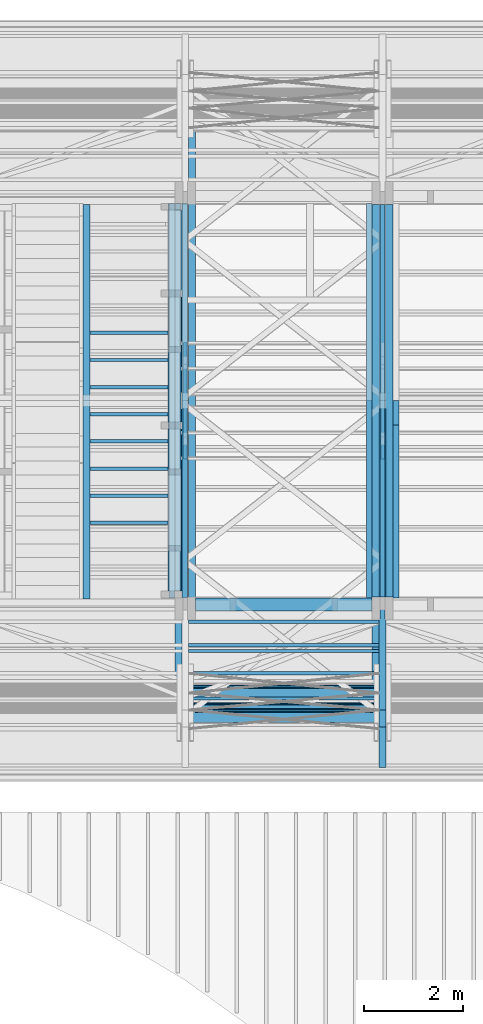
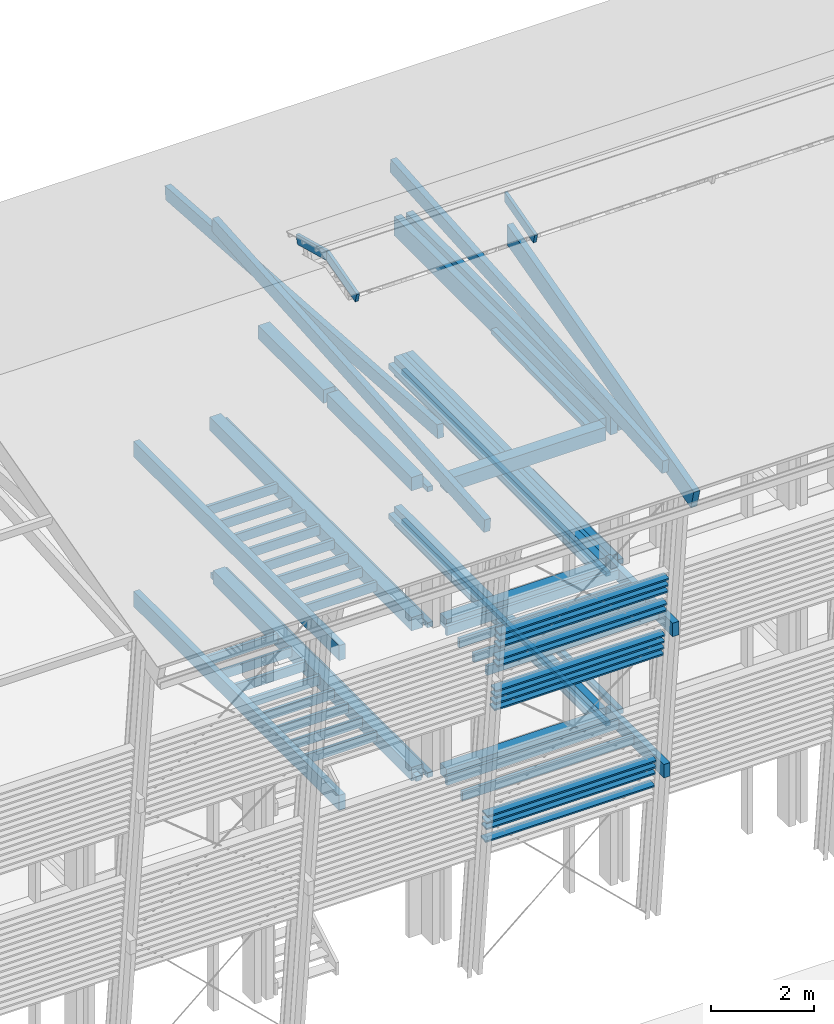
# One storey, part 10 of 48: 71 beams.
"""IFC2X3 building model written with IfcOpenShell, lengths in metres."""

from ifc_helpers import new_model, si_unit, direction, frame, origin_with_axes, place, context, subcontext, project, spatial, faceted_brep, material, element, save


model = new_model("IFC2X3")

# Units and contexts
model_context = context("Model", 3, precision=1e-06, world=origin_with_axes(), true_north=direction((0.0, 1.0, 0.0)))
body_context = subcontext(model_context, "Body", "Model", "MODEL_VIEW")
ifc_project = project(units=[si_unit("LENGTHUNIT", "METRE"), si_unit("AREAUNIT", "SQUARE_METRE"), si_unit("VOLUMEUNIT", "CUBIC_METRE"), si_unit("PLANEANGLEUNIT", "RADIAN")], contexts=[model_context])

# Site, building, storey
site_placement = place(None, origin_with_axes())
site = spatial("IfcSite", under=ifc_project, at=site_placement, CompositionType="ELEMENT")
building_placement = place(site_placement, origin_with_axes())
building = spatial("IfcBuilding", under=site, at=building_placement, Name="Building 1", CompositionType="ELEMENT")
storey_placement = place(building_placement, origin_with_axes())
storey = spatial("IfcBuildingStorey", under=building, at=storey_placement, Name="Storey 1", CompositionType="ELEMENT", Elevation=0.0)

# Beams
ifc_material_1 = material(Name="GL28h")
beam_1_placement = place(storey_placement, frame((43.5597437, -190.0330698, 7.699), z_axis=(0.0, 0.0, 1.0), x_axis=(1.0, 0.0, 0.0)))
element("IfcBeam", 1, at=beam_1_placement, inside=storey, material=ifc_material_1, Name="Solive", context=body_context, shape_type="Brep", body=[
    faceted_brep([(1.58, 0.035, -0.11), (1.58, -0.035, -0.11), (0.0, -0.035, -0.11), (0.0, 0.035, -0.11), (1.58, -0.035, 0.11), (0.0, -0.035, 0.11), (1.58, 0.035, 0.11), (0.0, 0.035, 0.11)], [[[0, 1, 2, 3]], [[1, 4, 5, 2]], [[4, 6, 7, 5]], [[6, 0, 3, 7]], [[0, 6, 4, 1]], [[5, 7, 3, 2]]]),
])
beam_2_placement = place(storey_placement, frame((45.2197437, -185.2064881, 4.015), z_axis=(0.0, 0.0, 1.0), x_axis=(0.0, -1.0, 0.0)))
element("IfcBeam", 2, at=beam_2_placement, inside=storey, material=ifc_material_1, Name="Sous-glace", context=body_context, shape_type="Brep", body=[
    faceted_brep([(0.0, -0.06, -0.06), (0.0, 0.06, -0.06), (8.0031634, 0.06, -0.06), (8.0031634, -0.06, -0.06), (0.0, 0.06, 0.06), (8.0031634, 0.06, 0.06), (0.0, -0.06, 0.06), (8.0031634, -0.06, 0.06)], [[[0, 1, 2, 3]], [[1, 4, 5, 2]], [[4, 6, 7, 5]], [[6, 0, 3, 7]], [[0, 6, 4, 1]], [[5, 7, 3, 2]]]),
])
beam_3_placement = place(storey_placement, frame((45.4897437, -190.3622807, 13.6093897), z_axis=(0.0, -0.258819, 0.9659258), x_axis=(0.0, 0.9659258, 0.258819)))
element("IfcBeam", 3, at=beam_3_placement, inside=storey, material=ifc_material_1, Name="Arbalétrier", context=body_context, shape_type="Brep", body=[
    faceted_brep([(0.0, -0.035, -0.11), (0.0, -0.035, 0.11), (0.0, 0.035, 0.11), (0.0, 0.035, -0.11), (1.2244015, -0.035, 0.11), (1.2244015, 0.035, 0.11), (1.1654527, -0.035, -0.11), (1.1654527, 0.035, -0.11)], [[[0, 1, 2, 3]], [[2, 1, 4, 5]], [[1, 0, 6, 4]], [[7, 5, 4, 6]], [[0, 3, 7, 6]], [[3, 2, 5, 7]]]),
])
beam_4_placement = place(storey_placement, frame((45.2697437, -185.3464881, 4.055), z_axis=(0.0, 0.0, 1.0), x_axis=(0.0, -1.0, 0.0)))
element("IfcBeam", 4, at=beam_4_placement, inside=storey, material=ifc_material_1, Name="Buton", context=body_context, shape_type="Brep", body=[
    faceted_brep([(7.7231634, -0.13, -0.16), (0.0, -0.13, -0.16), (0.0, 0.13, -0.16), (7.7231634, 0.13, -0.16), (0.0, -0.13, 0.16), (0.0, 0.13, 0.16), (7.7231634, -0.13, 0.16), (7.7231634, 0.13, 0.16)], [[[0, 1, 2, 3]], [[2, 1, 4, 5]], [[1, 0, 6, 4]], [[5, 4, 6, 7]], [[0, 3, 7, 6]], [[3, 2, 5, 7]]]),
])
beam_5_placement = place(storey_placement, frame((43.5597437, -190.5830698, 4.139), z_axis=(0.0, 0.0, 1.0), x_axis=(1.0, 0.0, 0.0)))
element("IfcBeam", 5, at=beam_5_placement, inside=storey, material=ifc_material_1, Name="Solive", context=body_context, shape_type="Brep", body=[
    faceted_brep([(1.58, 0.035, -0.11), (1.58, -0.035, -0.11), (0.0, -0.035, -0.11), (0.0, 0.035, -0.11), (1.58, -0.035, 0.11), (0.0, -0.035, 0.11), (1.58, 0.035, 0.11), (0.0, 0.035, 0.11)], [[[0, 1, 2, 3]], [[1, 4, 5, 2]], [[4, 6, 7, 5]], [[6, 0, 3, 7]], [[0, 6, 4, 1]], [[5, 7, 3, 2]]]),
])
beam_6_placement = place(storey_placement, frame((49.7597437, -189.7005698, 4.015), z_axis=(0.0, 0.0, 1.0), x_axis=(0.0, -1.0, 0.0)))
element("IfcBeam", 6, at=beam_6_placement, inside=storey, material=ifc_material_1, Name="Sous-glace", context=body_context, shape_type="Brep", body=[
    faceted_brep([(0.0, 0.06, -0.06), (0.0, -0.06, -0.06), (0.0, -0.06, 0.06), (0.0, 0.06, 0.06), (3.5090817, 0.06, 0.06), (3.5090817, 0.06, -0.06), (3.5090817, -0.06, -0.06), (3.5090817, -0.06, 0.06)], [[[0, 1, 2, 3]], [[0, 3, 4, 5]], [[2, 1, 6, 7]], [[3, 2, 7, 4]], [[1, 0, 5, 6]], [[4, 7, 6, 5]]]),
])
beam_7_placement = place(storey_placement, frame((45.6997437, -193.3396515, 4.085), z_axis=(0.0, 0.0, 1.0), x_axis=(1.0, 0.0, 0.0)))
element("IfcBeam", 7, at=beam_7_placement, inside=storey, material=ifc_material_1, Name="Buton", context=body_context, shape_type="Brep", body=[
    faceted_brep([(0.0, 0.13, 0.13), (0.0, -0.13, 0.13), (3.58, -0.13, 0.13), (3.58, 0.13, 0.13), (0.0, -0.13, -0.13), (3.58, -0.13, -0.13), (0.0, 0.13, -0.13), (3.58, 0.13, -0.13)], [[[0, 1, 2, 3]], [[2, 1, 4, 5]], [[1, 0, 6, 4]], [[5, 4, 6, 7]], [[0, 3, 7, 6]], [[3, 2, 5, 7]]]),
])
for number, where, z_axis, x_axis, name in (
    (8, (49.7597437, -189.2071519, 10.820019), (0.0, -0.0149983, 0.9998875), (0.0, -0.9998875, -0.0149983), "Sous-glace"),
    (9, (49.2197437, -189.2071519, 10.8200184), (0.0, -0.0149983, 0.9998875), (0.0, -0.9998875, -0.0149983), "Sous-glace"),
    (10, (45.4797437, -189.2071519, 10.8600229), (0.0, -0.0149983, 0.9998875), (0.0, -0.9998875, -0.0149983), "Sous-glace"),
):
    element("IfcBeam", number, at=place(storey_placement, frame(where, z_axis=z_axis, x_axis=x_axis)), inside=storey, material=ifc_material_1, Name=name, context=body_context, shape_type="Brep", body=[
        faceted_brep([(4.0020498, -0.06, 0.06), (4.0038498, -0.06, -0.06), (4.0038498, 0.06, -0.06), (4.0020498, 0.06, 0.06), (0.0018, -0.06, -0.06), (0.0018, 0.06, -0.06), (0.0, -0.06, 0.06), (0.0, 0.06, 0.06)], [[[0, 1, 2, 3]], [[2, 1, 4, 5]], [[1, 0, 6, 4]], [[5, 4, 6, 7]], [[3, 2, 5, 7]], [[0, 3, 7, 6]]]),
    ])
beam_8_placement = place(storey_placement, frame((43.5597437, -189.4830698, 7.699), z_axis=(0.0, 0.0, 1.0), x_axis=(1.0, 0.0, 0.0)))
element("IfcBeam", 11, at=beam_8_placement, inside=storey, material=ifc_material_1, Name="Solive", context=body_context, shape_type="Brep", body=[
    faceted_brep([(1.58, 0.035, -0.11), (1.58, -0.035, -0.11), (0.0, -0.035, -0.11), (0.0, 0.035, -0.11), (1.58, -0.035, 0.11), (0.0, -0.035, 0.11), (1.58, 0.035, 0.11), (0.0, 0.035, 0.11)], [[[0, 1, 2, 3]], [[1, 4, 5, 2]], [[4, 6, 7, 5]], [[6, 0, 3, 7]], [[0, 6, 4, 1]], [[5, 7, 3, 2]]]),
])
beam_9_placement = place(storey_placement, frame((49.4897437, -185.2264881, 3.805), z_axis=(0.0, 0.0, 1.0), x_axis=(0.0, -1.0, 0.0)))
element("IfcBeam", 12, at=beam_9_placement, inside=storey, material=ifc_material_1, Name="Sommier", context=body_context, shape_type="Brep", body=[
    faceted_brep([(0.0, -0.05, -0.05), (0.0, -0.05, 0.05), (0.0, 0.05, 0.05), (0.0, 0.05, -0.05), (7.9631634, -0.05, 0.05), (7.9631634, 0.05, 0.05), (7.9631634, -0.05, -0.05), (7.9631634, 0.05, -0.05)], [[[0, 1, 2, 3]], [[2, 1, 4, 5]], [[1, 0, 6, 4]], [[5, 4, 6, 7]], [[3, 2, 5, 7]], [[0, 3, 7, 6]]]),
])
beam_10_placement = place(storey_placement, frame((43.5597437, -190.5830698, 7.699), z_axis=(0.0, 0.0, 1.0), x_axis=(1.0, 0.0, 0.0)))
element("IfcBeam", 13, at=beam_10_placement, inside=storey, material=ifc_material_1, Name="Solive", context=body_context, shape_type="Brep", body=[
    faceted_brep([(1.58, 0.035, -0.11), (1.58, -0.035, -0.11), (0.0, -0.035, -0.11), (0.0, 0.035, -0.11), (1.58, -0.035, 0.11), (0.0, -0.035, 0.11), (1.58, 0.035, 0.11), (0.0, 0.035, 0.11)], [[[0, 1, 2, 3]], [[1, 4, 5, 2]], [[4, 6, 7, 5]], [[6, 0, 3, 7]], [[0, 6, 4, 1]], [[5, 7, 3, 2]]]),
])
beam_11_placement = place(storey_placement, frame((43.4897437, -185.2264877, 7.629), z_axis=(0.0, 0.0, 1.0), x_axis=(0.0, -1.0, 0.0)))
element("IfcBeam", 14, at=beam_11_placement, inside=storey, material=ifc_material_1, Name="Sommier", context=body_context, shape_type="Brep", body=[
    faceted_brep([(8.0031634, 0.07, 0.18), (8.0031634, 0.07, -0.18), (0.0, 0.07, -0.18), (0.0, 0.07, 0.18), (8.0031634, -0.07, -0.18), (0.0, -0.07, -0.18), (8.0031634, -0.07, 0.18), (0.0, -0.07, 0.18)], [[[0, 1, 2, 3]], [[1, 4, 5, 2]], [[4, 6, 7, 5]], [[6, 0, 3, 7]], [[1, 0, 6, 4]], [[7, 3, 2, 5]]]),
])
beam_12_placement = place(storey_placement, frame((45.2697437, -185.2064881, 7.615), z_axis=(0.0, 0.0, 1.0), x_axis=(0.0, -1.0, 0.0)))
element("IfcBeam", 15, at=beam_12_placement, inside=storey, material=ifc_material_1, Name="Buton", context=body_context, shape_type="Brep", body=[
    faceted_brep([(7.8631634, -0.13, -0.16), (0.0, -0.13, -0.16), (0.0, 0.13, -0.16), (7.8631634, 0.13, -0.16), (0.0, -0.13, 0.16), (0.0, 0.13, 0.16), (7.8631634, -0.13, 0.16), (7.8631634, 0.13, 0.16)], [[[0, 1, 2, 3]], [[2, 1, 4, 5]], [[1, 0, 6, 4]], [[5, 4, 6, 7]], [[0, 3, 7, 6]], [[3, 2, 5, 7]]]),
])
beam_13_placement = place(storey_placement, frame((49.4897437, -193.1896515, 4.089), z_axis=(0.0, 0.0, 1.0), x_axis=(0.0, -1.0, 0.0)))
element("IfcBeam", 16, at=beam_13_placement, inside=storey, material=ifc_material_1, Name="Sommier Coursive", context=body_context, shape_type="Brep", body=[
    faceted_brep([(0.0, 0.05, 0.16), (0.44, 0.05, 0.16), (0.44, 0.05, -0.16), (0.0, 0.05, -0.16), (0.44, 0.07, 0.16), (0.44, 0.07, -0.16), (0.0, -0.05, 0.16), (0.44, -0.05, 0.16), (0.44, -0.07, 0.16), (2.2900003, -0.07, 0.16), (2.2900003, 0.07, 0.16), (0.0, -0.05, -0.16), (0.44, -0.05, -0.16), (0.44, -0.07, -0.16), (2.2900003, 0.07, -0.16), (2.2900003, -0.07, -0.16)], [[[0, 1, 2, 3]], [[1, 4, 5, 2]], [[4, 1, 0, 6, 7, 8, 9, 10]], [[0, 3, 11, 6]], [[11, 12, 7, 6]], [[12, 13, 8, 7]], [[2, 5, 14, 15, 13, 12, 11, 3]], [[8, 13, 15, 9]], [[5, 4, 10, 14]], [[10, 9, 15, 14]]]),
])
beam_14_placement = place(storey_placement, frame((45.2697437, -187.1064884, 10.94), z_axis=(0.0, 0.0, 1.0), x_axis=(0.0, -1.0, 0.0)))
element("IfcBeam", 17, at=beam_14_placement, inside=storey, material=ifc_material_1, Name="Buton", context=body_context, shape_type="Brep", body=[
    faceted_brep([(0.0, 0.13, 0.16), (0.0, 0.13, -0.16), (0.0, -0.13, -0.16), (0.0, -0.13, 0.16), (2.533163, 0.13, 0.16), (2.533163, 0.13, -0.16), (2.533163, -0.13, 0.16), (2.533163, -0.13, -0.16)], [[[0, 1, 2, 3]], [[4, 5, 1, 0]], [[6, 4, 0, 3]], [[7, 6, 3, 2]], [[5, 7, 2, 1]], [[6, 7, 5, 4]]]),
])
beam_15_placement = place(storey_placement, frame((49.3597437, -185.2264881, 7.545), z_axis=(0.0, 0.0, 1.0), x_axis=(0.0, -1.0, 0.0)))
element("IfcBeam", 18, at=beam_15_placement, inside=storey, material=ifc_material_1, Name="Sommier", context=body_context, shape_type="Brep", body=[
    faceted_brep([(7.9631634, 0.08, 0.23), (7.9631634, 0.08, -0.23), (0.0, 0.08, -0.23), (0.0, 0.08, 0.23), (0.0, -0.08, -0.23), (0.0, -0.08, 0.23), (7.9631634, -0.08, -0.23), (7.9631634, -0.08, 0.23)], [[[0, 1, 2, 3]], [[2, 4, 5, 3]], [[6, 7, 5, 4]], [[1, 6, 4, 2]], [[7, 6, 1, 0]], [[7, 0, 3, 5]]]),
])
ifc_material_2 = material(Name="Moabi")
beam_16_placement = place(storey_placement, frame((49.3927439, -195.1275184, 4.0547563), z_axis=(0.0, 0.9945219, 0.1045285), x_axis=(-1.0, 0.0, 0.0)))
element("IfcBeam", 19, at=beam_16_placement, inside=storey, material=ifc_material_2, Name="garde corp", context=body_context, shape_type="Brep", body=[
    faceted_brep([(3.8048051, 0.02, -0.1), (3.8048051, -0.02, -0.1), (0.0, -0.02, -0.1), (0.0, 0.02, -0.1), (3.8048051, -0.02, 0.1), (0.0, -0.02, 0.1), (3.8048051, 0.02, 0.1), (0.0, 0.02, 0.1)], [[[0, 1, 2, 3]], [[1, 4, 5, 2]], [[4, 6, 7, 5]], [[6, 0, 3, 7]], [[1, 0, 6, 4]], [[7, 3, 2, 5]]]),
])
for number, where, z_axis, x_axis, name in (
    (20, (49.3927437, -195.5456322, 8.0328439), (0.0, 0.9945219, 0.1045285), (-1.0, 0.0, 0.0), "garde corp"),
    (21, (49.3927441, -195.5958059, 8.5102144), (0.0, 0.9945219, 0.1045285), (-1.0, 0.0, 0.0), "garde corp"),
    (22, (49.3927437, -195.6125305, 8.6693379), (0.0, 0.9945219, 0.1045285), (-1.0, 0.0, 0.0), "garde corp"),
):
    element("IfcBeam", number, at=place(storey_placement, frame(where, z_axis=z_axis, x_axis=x_axis)), inside=storey, material=ifc_material_2, Name=name, context=body_context, shape_type="Brep", body=[
        faceted_brep([(3.806, 0.02, -0.1), (3.806, -0.02, -0.1), (0.0, -0.02, -0.1), (0.0, 0.02, -0.1), (3.806, -0.02, 0.1), (0.0, -0.02, 0.1), (3.806, 0.02, 0.1), (0.0, 0.02, 0.1)], [[[0, 1, 2, 3]], [[1, 4, 5, 2]], [[4, 6, 7, 5]], [[6, 0, 3, 7]], [[1, 0, 6, 4]], [[7, 3, 2, 5]]]),
    ])
beam_17_placement = place(storey_placement, frame((49.3927439, -195.1107938, 3.8956328), z_axis=(0.0, 0.9945219, 0.1045285), x_axis=(-1.0, 0.0, 0.0)))
element("IfcBeam", 23, at=beam_17_placement, inside=storey, material=ifc_material_2, Name="garde corp", context=body_context, shape_type="Brep", body=[
    faceted_brep([(3.8047069, 0.02, -0.1), (3.8047071, -0.02, -0.1), (0.0, -0.02, -0.1), (0.0, 0.02, -0.1), (3.8047071, -0.02, 0.1), (0.0, -0.02, 0.1), (3.8047071, 0.02, 0.1), (0.0, 0.02, 0.1)], [[[0, 1, 2, 3]], [[1, 4, 5, 2]], [[4, 6, 7, 5]], [[6, 0, 3, 7]], [[1, 0, 6, 4]], [[7, 3, 2, 5]]]),
])
beam_18_placement = place(storey_placement, frame((49.3927439, -195.0773447, 3.5773858), z_axis=(0.0, 0.9945219, 0.1045285), x_axis=(-1.0, 0.0, 0.0)))
element("IfcBeam", 24, at=beam_18_placement, inside=storey, material=ifc_material_2, Name="garde corp", context=body_context, shape_type="Brep", body=[
    faceted_brep([(3.8047071, 0.02, -0.1), (3.8047071, -0.02, -0.1), (0.0, -0.02, -0.1), (0.0, 0.02, -0.1), (3.8047071, -0.02, 0.1), (0.0, -0.02, 0.1), (3.8047071, 0.02, 0.1), (0.0, 0.02, 0.1)], [[[0, 1, 2, 3]], [[1, 4, 5, 2]], [[4, 6, 7, 5]], [[6, 0, 3, 7]], [[1, 0, 6, 4]], [[7, 3, 2, 5]]]),
])
beam_19_placement = place(storey_placement, frame((49.3927441, -195.629255, 8.8284614), z_axis=(0.0, 0.9945219, 0.1045285), x_axis=(-1.0, 0.0, 0.0)))
element("IfcBeam", 25, at=beam_19_placement, inside=storey, material=ifc_material_2, Name="garde corp", context=body_context, shape_type="Brep", body=[
    faceted_brep([(3.806, 0.02, -0.1), (3.806, -0.02, -0.1), (0.0, -0.02, -0.1), (0.0, 0.02, -0.1), (3.806, -0.02, 0.1), (0.0, -0.02, 0.1), (3.806, 0.02, 0.1), (0.0, 0.02, 0.1)], [[[0, 1, 2, 3]], [[1, 4, 5, 2]], [[4, 6, 7, 5]], [[6, 0, 3, 7]], [[1, 0, 6, 4]], [[7, 3, 2, 5]]]),
])
beam_20_placement = place(storey_placement, frame((49.3927439, -195.1442429, 4.2138798), z_axis=(0.0, 0.9945219, 0.1045285), x_axis=(-1.0, 0.0, 0.0)))
element("IfcBeam", 26, at=beam_20_placement, inside=storey, material=ifc_material_2, Name="garde corp", context=body_context, shape_type="Brep", body=[
    faceted_brep([(3.8048051, 0.02, -0.1), (3.8048051, -0.02, -0.1), (0.0, -0.02, -0.1), (0.0, 0.02, -0.1), (3.8048051, -0.02, 0.1), (0.0, -0.02, 0.1), (3.8048051, 0.02, 0.1), (0.0, 0.02, 0.1)], [[[0, 1, 2, 3]], [[1, 4, 5, 2]], [[4, 6, 7, 5]], [[6, 0, 3, 7]], [[1, 0, 6, 4]], [[7, 3, 2, 5]]]),
])
beam_21_placement = place(storey_placement, frame((49.4897437, -185.2264881, 7.725), z_axis=(0.0, 0.0, 1.0), x_axis=(0.0, -1.0, 0.0)))
element("IfcBeam", 27, at=beam_21_placement, inside=storey, material=ifc_material_1, Name="Sommier", context=body_context, shape_type="Brep", body=[
    faceted_brep([(0.0, -0.05, -0.05), (0.0, -0.05, 0.05), (0.0, 0.05, 0.05), (0.0, 0.05, -0.05), (7.9631634, -0.05, 0.05), (7.9631634, 0.05, 0.05), (7.9631634, -0.05, -0.05), (7.9631634, 0.05, -0.05)], [[[0, 1, 2, 3]], [[2, 1, 4, 5]], [[1, 0, 6, 4]], [[5, 4, 6, 7]], [[3, 2, 5, 7]], [[0, 3, 7, 6]]]),
])
beam_22_placement = place(storey_placement, frame((49.3497437, -195.6652037, 11.4619485), z_axis=(0.0, -0.070184, 0.9975341), x_axis=(0.0, 0.9975341, 0.070184)))
element("IfcBeam", 28, at=beam_22_placement, inside=storey, material=ifc_material_1, Name="Entrait", context=body_context, shape_type="Brep", body=[
    faceted_brep([(0.0, 0.07, 0.16), (0.0110373, 0.07, -0.16), (0.0110373, -0.07, -0.16), (0.0, -0.07, 0.16), (10.6243711, 0.07, -0.16), (10.6243711, -0.07, -0.16), (10.6243711, 0.07, 0.16), (10.6243711, -0.07, 0.16)], [[[0, 1, 2, 3]], [[2, 1, 4, 5]], [[1, 0, 6, 4]], [[5, 4, 6, 7]], [[3, 2, 5, 7]], [[0, 3, 7, 6]]]),
])
beam_23_placement = place(storey_placement, frame((43.5597437, -188.9330698, 4.139), z_axis=(0.0, 0.0, 1.0), x_axis=(1.0, 0.0, 0.0)))
element("IfcBeam", 29, at=beam_23_placement, inside=storey, material=ifc_material_1, Name="Solive", context=body_context, shape_type="Brep", body=[
    faceted_brep([(1.58, 0.035, -0.11), (1.58, -0.035, -0.11), (0.0, -0.035, -0.11), (0.0, 0.035, -0.11), (1.58, -0.035, 0.11), (0.0, -0.035, 0.11), (1.58, 0.035, 0.11), (0.0, 0.035, 0.11)], [[[0, 1, 2, 3]], [[1, 4, 5, 2]], [[4, 6, 7, 5]], [[6, 0, 3, 7]], [[0, 6, 4, 1]], [[5, 7, 3, 2]]]),
])
beam_24_placement = place(storey_placement, frame((49.3597437, -185.2264881, 10.87), z_axis=(0.0, 0.0, 1.0), x_axis=(0.0, -1.0, 0.0)))
element("IfcBeam", 30, at=beam_24_placement, inside=storey, material=ifc_material_1, Name="Sommier", context=body_context, shape_type="Brep", body=[
    faceted_brep([(7.9631634, 0.08, 0.23), (7.9631634, 0.08, -0.23), (0.0, 0.08, -0.23), (0.0, 0.08, 0.23), (0.0, -0.08, -0.23), (0.0, -0.08, 0.23), (7.9631634, -0.08, -0.23), (7.9631634, -0.08, 0.23)], [[[0, 1, 2, 3]], [[2, 4, 5, 3]], [[6, 7, 5, 4]], [[1, 6, 4, 2]], [[7, 6, 1, 0]], [[7, 0, 3, 5]]]),
])
beam_25_placement = place(storey_placement, frame((45.5597437, -193.6846515, 4.139), z_axis=(0.0, 0.0, 1.0), x_axis=(1.0, 0.0, 0.0)))
element("IfcBeam", 31, at=beam_25_placement, inside=storey, material=ifc_material_1, Name="Solive", context=body_context, shape_type="Brep", body=[
    faceted_brep([(3.86, 0.035, 0.11), (3.86, 0.035, -0.11), (0.0, 0.035, -0.11), (0.0, 0.035, 0.11), (3.86, -0.035, -0.11), (0.0, -0.035, -0.11), (3.86, -0.035, 0.11), (0.0, -0.035, 0.11)], [[[0, 1, 2, 3]], [[1, 4, 5, 2]], [[4, 6, 7, 5]], [[6, 0, 3, 7]], [[1, 0, 6, 4]], [[7, 3, 2, 5]]]),
])
for number, where, z_axis, x_axis, name in (
    (32, (49.3927441, -195.4285604, 6.9189793), (0.0, 0.9945219, 0.1045285), (-1.0, 0.0, 0.0), "garde corp"),
    (33, (49.3927441, -195.4452849, 7.0781028), (0.0, 0.9945219, 0.1045285), (-1.0, 0.0, 0.0), "garde corp"),
    (34, (49.3927441, -195.4620095, 7.2372263), (0.0, 0.9945219, 0.1045285), (-1.0, 0.0, 0.0), "garde corp"),
    (35, (49.3927441, -195.478734, 7.3963498), (0.0, 0.9945219, 0.1045285), (-1.0, 0.0, 0.0), "garde corp"),
):
    element("IfcBeam", number, at=place(storey_placement, frame(where, z_axis=z_axis, x_axis=x_axis)), inside=storey, material=ifc_material_2, Name=name, context=body_context, shape_type="Brep", body=[
        faceted_brep([(3.806, 0.02, -0.1), (3.806, -0.02, -0.1), (0.0, -0.02, -0.1), (0.0, 0.02, -0.1), (3.806, -0.02, 0.1), (0.0, -0.02, 0.1), (3.806, 0.02, 0.1), (0.0, 0.02, 0.1)], [[[0, 1, 2, 3]], [[1, 4, 5, 2]], [[4, 6, 7, 5]], [[6, 0, 3, 7]], [[1, 0, 6, 4]], [[7, 3, 2, 5]]]),
    ])
beam_26_placement = place(storey_placement, frame((45.5597437, -194.2816702, 4.139), z_axis=(0.0, 0.0, 1.0), x_axis=(1.0, 0.0, 0.0)))
element("IfcBeam", 36, at=beam_26_placement, inside=storey, material=ifc_material_1, Name="Solive", context=body_context, shape_type="Brep", body=[
    faceted_brep([(3.86, 0.035, 0.11), (3.86, 0.035, -0.11), (0.0, 0.035, -0.11), (0.0, 0.035, 0.11), (3.86, -0.035, -0.11), (0.0, -0.035, -0.11), (3.86, -0.035, 0.11), (0.0, -0.035, 0.11)], [[[0, 1, 2, 3]], [[1, 4, 5, 2]], [[4, 6, 7, 5]], [[6, 0, 3, 7]], [[1, 0, 6, 4]], [[7, 3, 2, 5]]]),
])
beam_27_placement = place(storey_placement, frame((49.3927441, -195.5623568, 8.1919674), z_axis=(0.0, 0.9945219, 0.1045285), x_axis=(-1.0, 0.0, 0.0)))
element("IfcBeam", 37, at=beam_27_placement, inside=storey, material=ifc_material_2, Name="garde corp", context=body_context, shape_type="Brep", body=[
    faceted_brep([(3.806, 0.02, -0.1), (3.806, -0.02, -0.1), (0.0, -0.02, -0.1), (0.0, 0.02, -0.1), (3.806, -0.02, 0.1), (0.0, -0.02, 0.1), (3.806, 0.02, 0.1), (0.0, 0.02, 0.1)], [[[0, 1, 2, 3]], [[1, 4, 5, 2]], [[4, 6, 7, 5]], [[6, 0, 3, 7]], [[1, 0, 6, 4]], [[7, 3, 2, 5]]]),
])
for number, where, z_axis, x_axis in (
    (38, (43.5597437, -188.9330698, 7.699), (0.0, 0.0, 1.0), (1.0, 0.0, 0.0)),
    (39, (43.5597437, -191.1330698, 4.139), (0.0, 0.0, 1.0), (1.0, 0.0, 0.0)),
    (40, (43.5597437, -187.8330698, 7.699), (0.0, 0.0, 1.0), (1.0, 0.0, 0.0)),
    (41, (43.5597437, -191.1330698, 7.699), (0.0, 0.0, 1.0), (1.0, 0.0, 0.0)),
):
    element("IfcBeam", number, at=place(storey_placement, frame(where, z_axis=z_axis, x_axis=x_axis)), inside=storey, material=ifc_material_1, Name="Solive", context=body_context, shape_type="Brep", body=[
        faceted_brep([(1.58, 0.035, -0.11), (1.58, -0.035, -0.11), (0.0, -0.035, -0.11), (0.0, 0.035, -0.11), (1.58, -0.035, 0.11), (0.0, -0.035, 0.11), (1.58, 0.035, 0.11), (0.0, 0.035, 0.11)], [[[0, 1, 2, 3]], [[1, 4, 5, 2]], [[4, 6, 7, 5]], [[6, 0, 3, 7]], [[0, 6, 4, 1]], [[5, 7, 3, 2]]]),
    ])
beam_28_placement = place(storey_placement, frame((45.5597437, -194.1646515, 7.699), z_axis=(0.0, 0.0, 1.0), x_axis=(1.0, 0.0, 0.0)))
element("IfcBeam", 42, at=beam_28_placement, inside=storey, material=ifc_material_1, Name="Solive", context=body_context, shape_type="Brep", body=[
    faceted_brep([(3.86, 0.035, 0.11), (3.86, 0.035, -0.11), (0.0, 0.035, -0.11), (0.0, 0.035, 0.11), (3.86, -0.035, -0.11), (0.0, -0.035, -0.11), (3.86, -0.035, 0.11), (0.0, -0.035, 0.11)], [[[0, 1, 2, 3]], [[1, 4, 5, 2]], [[4, 6, 7, 5]], [[6, 0, 3, 7]], [[1, 0, 6, 4]], [[7, 3, 2, 5]]]),
])
beam_29_placement = place(storey_placement, frame((43.5597437, -191.6830698, 7.699), z_axis=(0.0, 0.0, 1.0), x_axis=(1.0, 0.0, 0.0)))
element("IfcBeam", 43, at=beam_29_placement, inside=storey, material=ifc_material_1, Name="Solive", context=body_context, shape_type="Brep", body=[
    faceted_brep([(1.58, 0.035, -0.11), (1.58, -0.035, -0.11), (0.0, -0.035, -0.11), (0.0, 0.035, -0.11), (1.58, -0.035, 0.11), (0.0, -0.035, 0.11), (1.58, 0.035, 0.11), (0.0, 0.035, 0.11)], [[[0, 1, 2, 3]], [[1, 4, 5, 2]], [[4, 6, 7, 5]], [[6, 0, 3, 7]], [[0, 6, 4, 1]], [[5, 7, 3, 2]]]),
])
for number, where, z_axis, x_axis in (
    (44, (45.5597437, -193.6846515, 7.699), (0.0, 0.0, 1.0), (1.0, 0.0, 0.0)),
    (45, (45.5597437, -194.7346515, 7.699), (0.0, 0.0, 1.0), (1.0, 0.0, 0.0)),
):
    element("IfcBeam", number, at=place(storey_placement, frame(where, z_axis=z_axis, x_axis=x_axis)), inside=storey, material=ifc_material_1, Name="Solive", context=body_context, shape_type="Brep", body=[
        faceted_brep([(3.86, 0.035, 0.11), (3.86, 0.035, -0.11), (0.0, 0.035, -0.11), (0.0, 0.035, 0.11), (3.86, -0.035, -0.11), (0.0, -0.035, -0.11), (3.86, -0.035, 0.11), (0.0, -0.035, 0.11)], [[[0, 1, 2, 3]], [[1, 4, 5, 2]], [[4, 6, 7, 5]], [[6, 0, 3, 7]], [[1, 0, 6, 4]], [[7, 3, 2, 5]]]),
    ])
beam_30_placement = place(storey_placement, frame((49.6197437, -185.2264881, 7.545), z_axis=(0.0, 0.0, 1.0), x_axis=(0.0, -1.0, 0.0)))
element("IfcBeam", 46, at=beam_30_placement, inside=storey, material=ifc_material_1, Name="Sommier", context=body_context, shape_type="Brep", body=[
    faceted_brep([(7.9631634, 0.08, 0.23), (7.9631634, 0.08, -0.23), (0.0, 0.08, -0.23), (0.0, 0.08, 0.23), (0.0, -0.08, -0.23), (0.0, -0.08, 0.23), (7.9631634, -0.08, -0.23), (7.9631634, -0.08, 0.23)], [[[0, 1, 2, 3]], [[2, 4, 5, 3]], [[6, 7, 5, 4]], [[1, 6, 4, 2]], [[7, 6, 1, 0]], [[7, 0, 3, 5]]]),
])
beam_31_placement = place(storey_placement, frame((45.5597437, -195.2446515, 7.699), z_axis=(0.0, 0.0, 1.0), x_axis=(1.0, 0.0, 0.0)))
element("IfcBeam", 47, at=beam_31_placement, inside=storey, material=ifc_material_1, Name="Solive", context=body_context, shape_type="Brep", body=[
    faceted_brep([(0.0, -0.035, -0.11), (0.0, -0.035, 0.11), (0.0, 0.035, 0.11), (0.0, 0.035, -0.11), (3.8599996, -0.035, 0.11), (3.8599996, 0.035, 0.11), (3.8599996, -0.035, -0.11), (3.8599996, 0.035, -0.11)], [[[0, 1, 2, 3]], [[2, 1, 4, 5]], [[1, 0, 6, 4]], [[0, 3, 7, 6]], [[3, 2, 5, 7]], [[7, 5, 4, 6]]]),
])
beam_32_placement = place(storey_placement, frame((43.5597437, -190.0330698, 4.139), z_axis=(0.0, 0.0, 1.0), x_axis=(1.0, 0.0, 0.0)))
element("IfcBeam", 48, at=beam_32_placement, inside=storey, material=ifc_material_1, Name="Solive", context=body_context, shape_type="Brep", body=[
    faceted_brep([(1.58, 0.035, -0.11), (1.58, -0.035, -0.11), (0.0, -0.035, -0.11), (0.0, 0.035, -0.11), (1.58, -0.035, 0.11), (0.0, -0.035, 0.11), (1.58, 0.035, 0.11), (0.0, 0.035, 0.11)], [[[0, 1, 2, 3]], [[1, 4, 5, 2]], [[4, 6, 7, 5]], [[6, 0, 3, 7]], [[0, 6, 4, 1]], [[5, 7, 3, 2]]]),
])
beam_33_placement = place(storey_placement, frame((49.2197437, -185.2064881, 7.575), z_axis=(0.0, 0.0, 1.0), x_axis=(0.0, -1.0, 0.0)))
element("IfcBeam", 49, at=beam_33_placement, inside=storey, material=ifc_material_1, Name="Sous-glace", context=body_context, shape_type="Brep", body=[
    faceted_brep([(0.0, -0.06, -0.06), (0.0, 0.06, -0.06), (8.0031634, 0.06, -0.06), (8.0031634, -0.06, -0.06), (0.0, 0.06, 0.06), (8.0031634, 0.06, 0.06), (0.0, -0.06, 0.06), (8.0031634, -0.06, 0.06)], [[[0, 1, 2, 3]], [[1, 4, 5, 2]], [[4, 6, 7, 5]], [[6, 0, 3, 7]], [[0, 6, 4, 1]], [[5, 7, 3, 2]]]),
])
for number, where, z_axis, x_axis in (
    (50, (43.5597437, -188.3830698, 4.139), (0.0, 0.0, 1.0), (1.0, 0.0, 0.0)),
    (51, (43.5597437, -189.4830698, 4.139), (0.0, 0.0, 1.0), (1.0, 0.0, 0.0)),
    (52, (43.5597437, -191.6830698, 4.139), (0.0, 0.0, 1.0), (1.0, 0.0, 0.0)),
    (53, (43.5597437, -187.8330698, 4.139), (0.0, 0.0, 1.0), (1.0, 0.0, 0.0)),
):
    element("IfcBeam", number, at=place(storey_placement, frame(where, z_axis=z_axis, x_axis=x_axis)), inside=storey, material=ifc_material_1, Name="Solive", context=body_context, shape_type="Brep", body=[
        faceted_brep([(1.58, 0.035, -0.11), (1.58, -0.035, -0.11), (0.0, -0.035, -0.11), (0.0, 0.035, -0.11), (1.58, -0.035, 0.11), (0.0, -0.035, 0.11), (1.58, 0.035, 0.11), (0.0, 0.035, 0.11)], [[[0, 1, 2, 3]], [[1, 4, 5, 2]], [[4, 6, 7, 5]], [[6, 0, 3, 7]], [[0, 6, 4, 1]], [[5, 7, 3, 2]]]),
    ])
beam_34_placement = place(storey_placement, frame((45.4897437, -188.0546173, 13.6095929), z_axis=(0.0, 0.258819, 0.9659258), x_axis=(0.0, -0.9659258, 0.258819)))
element("IfcBeam", 54, at=beam_34_placement, inside=storey, material=ifc_material_1, Name="Arbalétrier", context=body_context, shape_type="Brep", body=[
    faceted_brep([(0.0, -0.035, -0.11), (0.0, -0.035, 0.11), (0.0, 0.035, 0.11), (0.0, 0.035, -0.11), (1.2236163, -0.035, 0.11), (1.2236163, 0.035, 0.11), (1.1646675, -0.035, -0.11), (1.1646675, 0.035, -0.11)], [[[0, 1, 2, 3]], [[2, 1, 4, 5]], [[1, 0, 6, 4]], [[7, 5, 4, 6]], [[0, 3, 7, 6]], [[3, 2, 5, 7]]]),
])
beam_35_placement = place(storey_placement, frame((45.6297437, -182.7509358, 11.4619485), z_axis=(0.0, 0.070184, 0.9975341), x_axis=(0.0, -0.9975341, 0.070184)))
element("IfcBeam", 55, at=beam_35_placement, inside=storey, material=ifc_material_1, Name="Entrait", context=body_context, shape_type="Brep", body=[
    faceted_brep([(0.0, 0.07, 0.16), (0.0110373, 0.07, -0.16), (0.0110373, -0.07, -0.16), (0.0, -0.07, 0.16), (10.6243711, 0.07, -0.16), (10.6243711, -0.07, -0.16), (10.6243711, 0.07, 0.16), (10.6243711, -0.07, 0.16)], [[[0, 1, 2, 3]], [[2, 1, 4, 5]], [[1, 0, 6, 4]], [[5, 4, 6, 7]], [[3, 2, 5, 7]], [[0, 3, 7, 6]]]),
])
beam_36_placement = place(storey_placement, frame((49.7597437, -189.7005698, 7.575), z_axis=(0.0, 0.0, 1.0), x_axis=(0.0, -1.0, 0.0)))
element("IfcBeam", 56, at=beam_36_placement, inside=storey, material=ifc_material_1, Name="Sous-glace", context=body_context, shape_type="Brep", body=[
    faceted_brep([(0.0, 0.06, -0.06), (0.0, -0.06, -0.06), (0.0, -0.06, 0.06), (0.0, 0.06, 0.06), (3.5090817, 0.06, 0.06), (3.5090817, 0.06, -0.06), (3.5090817, -0.06, -0.06), (3.5090817, -0.06, 0.06)], [[[0, 1, 2, 3]], [[0, 3, 4, 5]], [[2, 1, 6, 7]], [[3, 2, 7, 4]], [[1, 0, 5, 6]], [[4, 7, 6, 5]]]),
])
for number, where, z_axis, x_axis in (
    (57, (49.3597437, -185.2264881, 3.985), (0.0, 0.0, 1.0), (0.0, -1.0, 0.0)),
    (58, (49.6197437, -185.2264881, 10.87), (0.0, 0.0, 1.0), (0.0, -1.0, 0.0)),
):
    element("IfcBeam", number, at=place(storey_placement, frame(where, z_axis=z_axis, x_axis=x_axis)), inside=storey, material=ifc_material_1, Name="Sommier", context=body_context, shape_type="Brep", body=[
        faceted_brep([(7.9631634, 0.08, 0.23), (7.9631634, 0.08, -0.23), (0.0, 0.08, -0.23), (0.0, 0.08, 0.23), (0.0, -0.08, -0.23), (0.0, -0.08, 0.23), (7.9631634, -0.08, -0.23), (7.9631634, -0.08, 0.23)], [[[0, 1, 2, 3]], [[2, 4, 5, 3]], [[6, 7, 5, 4]], [[1, 6, 4, 2]], [[7, 6, 1, 0]], [[7, 0, 3, 5]]]),
    ])
beam_37_placement = place(storey_placement, frame((49.2197437, -185.2064881, 4.015), z_axis=(0.0, 0.0, 1.0), x_axis=(0.0, -1.0, 0.0)))
element("IfcBeam", 59, at=beam_37_placement, inside=storey, material=ifc_material_1, Name="Sous-glace", context=body_context, shape_type="Brep", body=[
    faceted_brep([(0.0, -0.06, -0.06), (0.0, 0.06, -0.06), (8.0031634, 0.06, -0.06), (8.0031634, -0.06, -0.06), (0.0, 0.06, 0.06), (8.0031634, 0.06, 0.06), (0.0, -0.06, 0.06), (8.0031634, -0.06, 0.06)], [[[0, 1, 2, 3]], [[1, 4, 5, 2]], [[4, 6, 7, 5]], [[6, 0, 3, 7]], [[0, 6, 4, 1]], [[5, 7, 3, 2]]]),
])
beam_38_placement = place(storey_placement, frame((49.4897437, -185.2264881, 7.365), z_axis=(0.0, 0.0, 1.0), x_axis=(0.0, -1.0, 0.0)))
element("IfcBeam", 60, at=beam_38_placement, inside=storey, material=ifc_material_1, Name="Sommier", context=body_context, shape_type="Brep", body=[
    faceted_brep([(0.0, -0.05, -0.05), (0.0, -0.05, 0.05), (0.0, 0.05, 0.05), (0.0, 0.05, -0.05), (7.9631634, -0.05, 0.05), (7.9631634, 0.05, 0.05), (7.9631634, -0.05, -0.05), (7.9631634, 0.05, -0.05)], [[[0, 1, 2, 3]], [[2, 1, 4, 5]], [[1, 0, 6, 4]], [[5, 4, 6, 7]], [[3, 2, 5, 7]], [[0, 3, 7, 6]]]),
])
beam_39_placement = place(storey_placement, frame((45.3497437, -195.6652037, 11.4619485), z_axis=(0.0, -0.070184, 0.9975341), x_axis=(0.0, 0.9975341, 0.070184)))
element("IfcBeam", 61, at=beam_39_placement, inside=storey, material=ifc_material_1, Name="Entrait", context=body_context, shape_type="Brep", body=[
    faceted_brep([(0.0, 0.07, 0.16), (0.0110373, 0.07, -0.16), (0.0110373, -0.07, -0.16), (0.0, -0.07, 0.16), (10.6243711, 0.07, -0.16), (10.6243711, -0.07, -0.16), (10.6243711, 0.07, 0.16), (10.6243711, -0.07, 0.16)], [[[0, 1, 2, 3]], [[2, 1, 4, 5]], [[1, 0, 6, 4]], [[5, 4, 6, 7]], [[3, 2, 5, 7]], [[0, 3, 7, 6]]]),
])
beam_40_placement = place(storey_placement, frame((49.4897437, -190.3622807, 13.6093897), z_axis=(0.0, -0.258819, 0.9659258), x_axis=(0.0, 0.9659258, 0.258819)))
element("IfcBeam", 62, at=beam_40_placement, inside=storey, material=ifc_material_1, Name="Arbalétrier", context=body_context, shape_type="Brep", body=[
    faceted_brep([(0.0, -0.035, -0.11), (0.0, -0.035, 0.11), (0.0, 0.035, 0.11), (0.0, 0.035, -0.11), (1.2244015, -0.035, 0.11), (1.2244015, 0.035, 0.11), (1.1654527, -0.035, -0.11), (1.1654527, 0.035, -0.11)], [[[0, 1, 2, 3]], [[2, 1, 4, 5]], [[1, 0, 6, 4]], [[7, 5, 4, 6]], [[0, 3, 7, 6]], [[3, 2, 5, 7]]]),
])
beam_41_placement = place(storey_placement, frame((49.4897437, -193.1896515, 7.649), z_axis=(0.0, 0.0, 1.0), x_axis=(0.0, -1.0, 0.0)))
element("IfcBeam", 63, at=beam_41_placement, inside=storey, material=ifc_material_1, Name="Sommier Coursive", context=body_context, shape_type="Brep", body=[
    faceted_brep([(0.0, -0.05, -0.16), (0.44, -0.05, -0.16), (0.44, -0.05, 0.16), (0.0, -0.05, 0.16), (0.44, -0.07, -0.16), (0.44, -0.07, 0.16), (0.0, 0.05, 0.16), (0.0, 0.05, -0.16), (2.6285375, -0.07, 0.16), (2.6285375, 0.07, 0.16), (0.44, 0.07, 0.16), (0.44, 0.05, 0.16), (0.44, 0.05, -0.16), (0.44, 0.07, -0.16), (2.6285375, -0.07, -0.16), (2.6285375, 0.07, -0.16)], [[[0, 1, 2, 3]], [[1, 4, 5, 2]], [[0, 3, 6, 7]], [[3, 2, 5, 8, 9, 10, 11, 6]], [[6, 11, 12, 7]], [[11, 10, 13, 12]], [[5, 4, 14, 8]], [[1, 0, 7, 12, 13, 15, 14, 4]], [[13, 10, 9, 15]], [[9, 8, 14, 15]]]),
])
beam_42_placement = place(storey_placement, frame((49.4897437, -196.5806087, 11.197686), z_axis=(0.0, -0.258819, 0.9659258), x_axis=(0.0, 0.9659258, 0.258819)))
element("IfcBeam", 64, at=beam_42_placement, inside=storey, material=ifc_material_1, Name="Arbalétrier", context=body_context, shape_type="Brep", body=[
    faceted_brep([(7.4053414, 0.07, -0.23), (7.5285981, 0.07, 0.23), (7.5285981, -0.07, 0.23), (7.4053414, -0.07, -0.23), (0.0, 0.07, 0.23), (0.0, -0.07, 0.23), (0.0, 0.07, -0.23), (0.0, -0.07, -0.23)], [[[0, 1, 2, 3]], [[2, 1, 4, 5]], [[1, 0, 6, 4]], [[0, 3, 7, 6]], [[3, 2, 5, 7]], [[6, 7, 5, 4]]]),
])
beam_43_placement = place(storey_placement, frame((45.6997437, -193.3396515, 7.645), z_axis=(0.0, 0.0, 1.0), x_axis=(1.0, 0.0, 0.0)))
element("IfcBeam", 65, at=beam_43_placement, inside=storey, material=ifc_material_1, Name="Buton", context=body_context, shape_type="Brep", body=[
    faceted_brep([(0.0, 0.13, 0.13), (0.0, -0.13, 0.13), (3.58, -0.13, 0.13), (3.58, 0.13, 0.13), (0.0, -0.13, -0.13), (3.58, -0.13, -0.13), (0.0, 0.13, -0.13), (3.58, 0.13, -0.13)], [[[0, 1, 2, 3]], [[2, 1, 4, 5]], [[1, 0, 6, 4]], [[5, 4, 6, 7]], [[0, 3, 7, 6]], [[3, 2, 5, 7]]]),
])
beam_44_placement = place(storey_placement, frame((45.6997437, -193.3396515, 10.94), z_axis=(0.0, 0.0, 1.0), x_axis=(1.0, 0.0, 0.0)))
element("IfcBeam", 66, at=beam_44_placement, inside=storey, material=ifc_material_1, Name="Buton", context=body_context, shape_type="Brep", body=[
    faceted_brep([(0.0, 0.13, 0.16), (0.0, -0.13, 0.16), (3.58, -0.13, 0.16), (3.58, 0.13, 0.16), (0.0, -0.13, -0.16), (3.58, -0.13, -0.16), (0.0, 0.13, -0.16), (3.58, 0.13, -0.16)], [[[0, 1, 2, 3]], [[2, 1, 4, 5]], [[1, 0, 6, 4]], [[5, 4, 6, 7]], [[3, 2, 5, 7]], [[0, 3, 7, 6]]]),
])
beam_45_placement = place(storey_placement, frame((45.4797437, -185.2064881, 7.575), z_axis=(0.0, 0.0, 1.0), x_axis=(0.0, -1.0, 0.0)))
element("IfcBeam", 67, at=beam_45_placement, inside=storey, material=ifc_material_1, Name="Sous-glace", context=body_context, shape_type="Brep", body=[
    faceted_brep([(0.0, -0.06, -0.06), (0.0, 0.06, -0.06), (8.0031634, 0.06, -0.06), (8.0031634, -0.06, -0.06), (0.0, 0.06, 0.06), (8.0031634, 0.06, 0.06), (0.0, -0.06, 0.06), (8.0031634, -0.06, 0.06)], [[[0, 1, 2, 3]], [[1, 4, 5, 2]], [[4, 6, 7, 5]], [[6, 0, 3, 7]], [[0, 6, 4, 1]], [[5, 7, 3, 2]]]),
])
beam_46_placement = place(storey_placement, frame((43.4897437, -185.2264877, 4.069), z_axis=(0.0, 0.0, 1.0), x_axis=(0.0, -1.0, 0.0)))
element("IfcBeam", 68, at=beam_46_placement, inside=storey, material=ifc_material_1, Name="Sommier", context=body_context, shape_type="Brep", body=[
    faceted_brep([(8.0031634, 0.07, 0.18), (8.0031634, 0.07, -0.18), (0.0, 0.07, -0.18), (0.0, 0.07, 0.18), (8.0031634, -0.07, -0.18), (0.0, -0.07, -0.18), (8.0031634, -0.07, 0.18), (0.0, -0.07, 0.18)], [[[0, 1, 2, 3]], [[1, 4, 5, 2]], [[4, 6, 7, 5]], [[6, 0, 3, 7]], [[1, 0, 6, 4]], [[7, 3, 2, 5]]]),
])
beam_47_placement = place(storey_placement, frame((45.4797437, -185.2064881, 4.015), z_axis=(0.0, 0.0, 1.0), x_axis=(0.0, -1.0, 0.0)))
element("IfcBeam", 69, at=beam_47_placement, inside=storey, material=ifc_material_1, Name="Sous-glace", context=body_context, shape_type="Brep", body=[
    faceted_brep([(0.0, -0.06, -0.06), (0.0, 0.06, -0.06), (8.0031634, 0.06, -0.06), (8.0031634, -0.06, -0.06), (0.0, 0.06, 0.06), (8.0031634, 0.06, 0.06), (0.0, -0.06, 0.06), (8.0031634, -0.06, 0.06)], [[[0, 1, 2, 3]], [[1, 4, 5, 2]], [[4, 6, 7, 5]], [[6, 0, 3, 7]], [[0, 6, 4, 1]], [[5, 7, 3, 2]]]),
])
beam_48_placement = place(storey_placement, frame((45.2697437, -189.7796515, 10.94), z_axis=(0.0, 0.0, 1.0), x_axis=(0.0, -1.0, 0.0)))
element("IfcBeam", 70, at=beam_48_placement, inside=storey, material=ifc_material_1, Name="Buton", context=body_context, shape_type="Brep", body=[
    faceted_brep([(0.0, -0.13, -0.16), (0.0, -0.13, 0.16), (0.0, 0.13, 0.16), (0.0, 0.13, -0.16), (3.29, 0.13, -0.16), (3.29, -0.13, -0.16), (3.29, 0.13, 0.16), (3.29, -0.13, 0.16)], [[[0, 1, 2, 3]], [[0, 3, 4, 5]], [[3, 2, 6, 4]], [[1, 0, 5, 7]], [[6, 7, 5, 4]], [[2, 1, 7, 6]]]),
])
beam_49_placement = place(storey_placement, frame((43.5597437, -188.3830698, 7.699), z_axis=(0.0, 0.0, 1.0), x_axis=(1.0, 0.0, 0.0)))
element("IfcBeam", 71, at=beam_49_placement, inside=storey, material=ifc_material_1, Name="Solive", context=body_context, shape_type="Brep", body=[
    faceted_brep([(1.58, 0.035, -0.11), (1.58, -0.035, -0.11), (0.0, -0.035, -0.11), (0.0, 0.035, -0.11), (1.58, -0.035, 0.11), (0.0, -0.035, 0.11), (1.58, 0.035, 0.11), (0.0, 0.035, 0.11)], [[[0, 1, 2, 3]], [[1, 4, 5, 2]], [[4, 6, 7, 5]], [[6, 0, 3, 7]], [[0, 6, 4, 1]], [[5, 7, 3, 2]]]),
])

save(model, "model.ifc")
